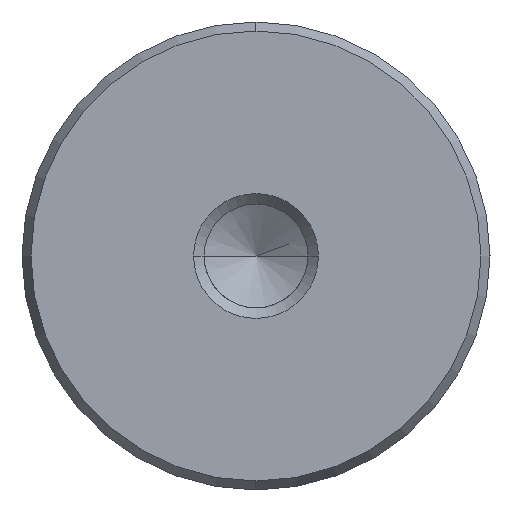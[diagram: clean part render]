
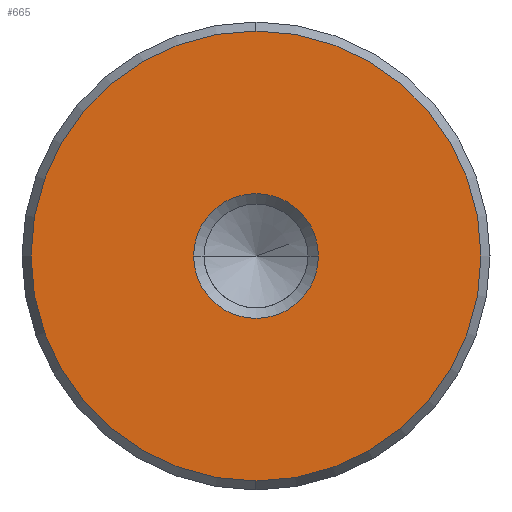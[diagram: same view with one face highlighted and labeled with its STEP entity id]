
A CAD part, left-side view. The second image highlights one B-rep face of the part: STEP entity #665.
In plain terms, the highlighted planar face has unit normal (-1, 0, 0).
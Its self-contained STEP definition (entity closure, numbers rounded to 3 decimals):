
#579=CARTESIAN_POINT('Vertex',(0.,0.,-14.423)) ;
#582=CARTESIAN_POINT('Axis2P3D Location',(0.,0.,0.)) ;
#586=CARTESIAN_POINT('Vertex',(0.,14.423,0.)) ;
#589=CARTESIAN_POINT('Axis2P3D Location',(0.,0.,0.)) ;
#593=CARTESIAN_POINT('Vertex',(0.,0.,14.423)) ;
#615=CARTESIAN_POINT('Axis2P3D Location',(0.,0.,0.)) ;
#619=CARTESIAN_POINT('Vertex',(0.,-14.423,0.)) ;
#622=CARTESIAN_POINT('Axis2P3D Location',(0.,0.,0.)) ;
#636=CARTESIAN_POINT('Axis2P3D Location',(0.,0.,0.)) ;
#647=CARTESIAN_POINT('Axis2P3D Location',(0.,0.,0.)) ;
#651=CARTESIAN_POINT('Vertex',(0.,4.,0.)) ;
#653=CARTESIAN_POINT('Vertex',(0.,-4.,0.)) ;
#656=CARTESIAN_POINT('Axis2P3D Location',(0.,0.,0.)) ;
#583=DIRECTION('Axis2P3D Direction',(1.,0.,-0.)) ;
#590=DIRECTION('Axis2P3D Direction',(1.,0.,-0.)) ;
#616=DIRECTION('Axis2P3D Direction',(1.,0.,-0.)) ;
#623=DIRECTION('Axis2P3D Direction',(1.,0.,-0.)) ;
#637=DIRECTION('Axis2P3D Direction',(1.,0.,-0.)) ;
#638=DIRECTION('Axis2P3D XDirection',(-0.,0.,-1.)) ;
#648=DIRECTION('Axis2P3D Direction',(1.,0.,-0.)) ;
#657=DIRECTION('Axis2P3D Direction',(1.,0.,-0.)) ;
#584=AXIS2_PLACEMENT_3D('Circle Axis2P3D',#582,#583,$) ;
#591=AXIS2_PLACEMENT_3D('Circle Axis2P3D',#589,#590,$) ;
#617=AXIS2_PLACEMENT_3D('Circle Axis2P3D',#615,#616,$) ;
#624=AXIS2_PLACEMENT_3D('Circle Axis2P3D',#622,#623,$) ;
#639=AXIS2_PLACEMENT_3D('Plane Axis2P3D',#636,#637,#638) ;
#649=AXIS2_PLACEMENT_3D('Circle Axis2P3D',#647,#648,$) ;
#658=AXIS2_PLACEMENT_3D('Circle Axis2P3D',#656,#657,$) ;
#642=ORIENTED_EDGE('',*,*,#588,.F.) ;
#643=ORIENTED_EDGE('',*,*,#626,.F.) ;
#644=ORIENTED_EDGE('',*,*,#621,.F.) ;
#645=ORIENTED_EDGE('',*,*,#595,.F.) ;
#662=ORIENTED_EDGE('',*,*,#655,.T.) ;
#663=ORIENTED_EDGE('',*,*,#660,.T.) ;
#664=FACE_BOUND('',#661,.T.) ;
#665=ADVANCED_FACE('720-30x500',(#646,#664),#640,.F.) ;
#585=CIRCLE('generated circle',#584,14.423) ;
#592=CIRCLE('generated circle',#591,14.423) ;
#618=CIRCLE('generated circle',#617,14.423) ;
#625=CIRCLE('generated circle',#624,14.423) ;
#650=CIRCLE('generated circle',#649,4.) ;
#659=CIRCLE('generated circle',#658,4.) ;
#588=EDGE_CURVE('',#580,#587,#585,.T.) ;
#595=EDGE_CURVE('',#587,#594,#592,.T.) ;
#621=EDGE_CURVE('',#594,#620,#618,.T.) ;
#626=EDGE_CURVE('',#620,#580,#625,.T.) ;
#655=EDGE_CURVE('',#652,#654,#650,.T.) ;
#660=EDGE_CURVE('',#654,#652,#659,.T.) ;
#641=EDGE_LOOP('',(#642,#643,#644,#645)) ;
#661=EDGE_LOOP('',(#662,#663)) ;
#646=FACE_OUTER_BOUND('',#641,.T.) ;
#640=PLANE('Plane',#639) ;
#580=VERTEX_POINT('',#579) ;
#587=VERTEX_POINT('',#586) ;
#594=VERTEX_POINT('',#593) ;
#620=VERTEX_POINT('',#619) ;
#652=VERTEX_POINT('',#651) ;
#654=VERTEX_POINT('',#653) ;
